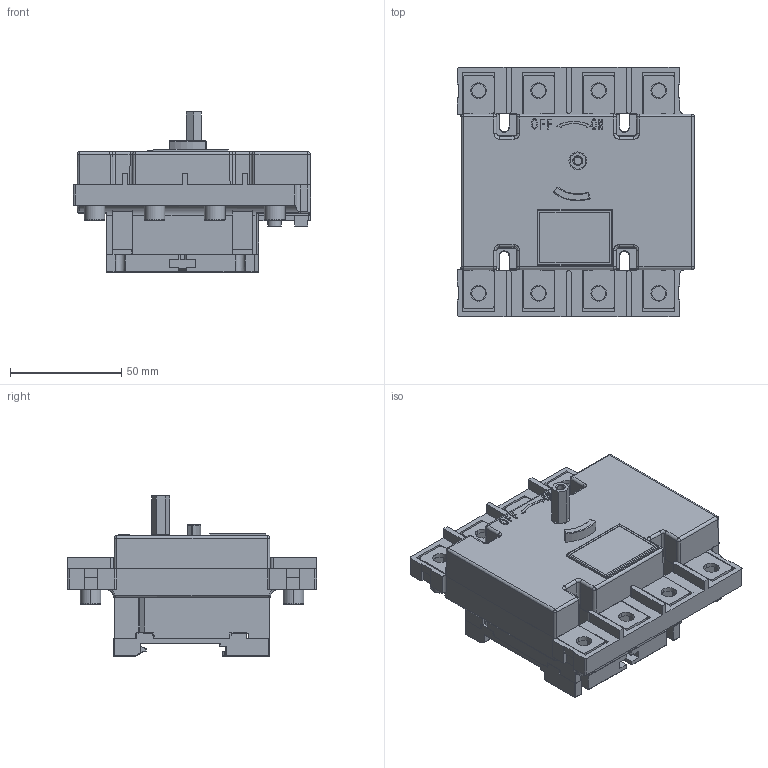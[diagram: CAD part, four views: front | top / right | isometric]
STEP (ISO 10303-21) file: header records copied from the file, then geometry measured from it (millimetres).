
FILE_DESCRIPTION((''),'2;1');
FILE_NAME('NH40-16-100-4_ASM','2020-10-07T',('zhuanghy'),(''),'PRO/ENGINEER BY PARAMETRIC TECHNOLOGY CORPORATION, 2008380','PRO/ENGINEER BY PARAMETRIC TECHNOLOGY CORPORATION, 2008380','');
FILE_SCHEMA(('CONFIG_CONTROL_DESIGN'));
Length unit declared in the file: millimetre
Products named in the file (9): PRT0062; PRT0063; ASM0008_ASM_ASM; PRT0064; PRT0065; PRT0066; ASM0007_ASM_ASM; ASM0006_ASM_ASM; NH40-16-100-4_ASM
Assembly tree (15 placements, depth 5):
  NH40-16-100-4_ASM
    ASM0006_ASM_ASM
      ASM0007_ASM_ASM
        ASM0008_ASM_ASM
          PRT0062
          PRT0063
        PRT0064
        PRT0065  x8
        PRT0066
Bounding box: 106.6 x 112 x 72 mm (x, y, z)
Volume: 322206.9 mm3; surface area: 114986.9 mm2
Topology: 12 solids, 12 shells, 1868 faces, 5121 edges, 3242 vertices
Faces by surface type: plane 1156, cylinder 516, torus 88, sphere 83, bspline 22, cone 3
Entity records: 53911 total; most frequent: CARTESIAN_POINT 11843, ORIENTED_EDGE 8886, DIRECTION 8568, EDGE_CURVE 4443, VECTOR 3194, LINE 3194, VERTEX_POINT 2835, AXIS2_PLACEMENT_3D 2687
